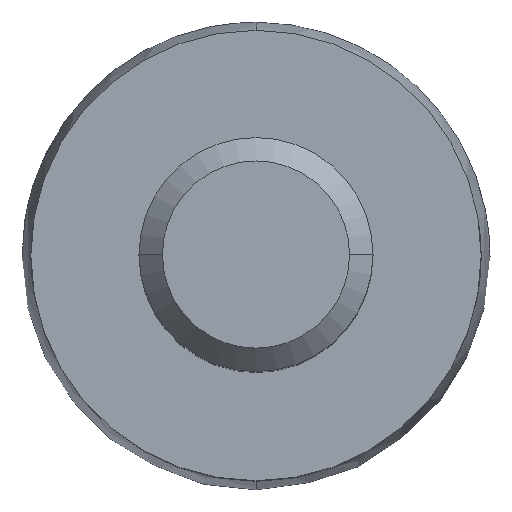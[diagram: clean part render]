
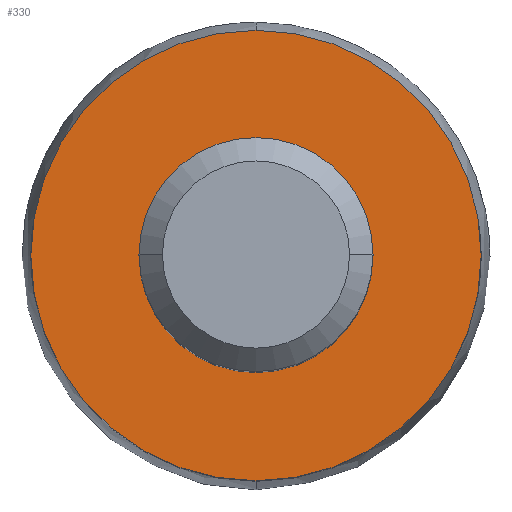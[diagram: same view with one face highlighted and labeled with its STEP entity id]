
A CAD part, top view. The second image highlights one B-rep face of the part: STEP entity #330.
In plain terms, the highlighted planar face has unit normal (0, 0, 1).
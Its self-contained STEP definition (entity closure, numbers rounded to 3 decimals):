
#1 = CARTESIAN_POINT ( 'NONE',  ( 4., 0., -20. ) ) ;
#8 = VERTEX_POINT ( 'NONE', #191 ) ;
#13 = FACE_BOUND ( 'NONE', #237, .T. ) ;
#30 = DIRECTION ( 'NONE',  ( 0., 0., -1. ) ) ;
#69 = CARTESIAN_POINT ( 'NONE',  ( 0., 0., -20. ) ) ;
#78 = AXIS2_PLACEMENT_3D ( 'NONE', #286, #116, #323 ) ;
#86 = AXIS2_PLACEMENT_3D ( 'NONE', #415, #413, #350 ) ;
#107 = DIRECTION ( 'NONE',  ( -1., 0., 0. ) ) ;
#116 = DIRECTION ( 'NONE',  ( 0., 0., 1. ) ) ;
#118 = EDGE_CURVE ( 'NONE', #276, #392, #428, .T. ) ;
#131 = ORIENTED_EDGE ( 'NONE', *, *, #118, .F. ) ;
#144 = EDGE_CURVE ( 'NONE', #392, #276, #398, .T. ) ;
#184 = PLANE ( 'NONE',  #78 ) ;
#191 = CARTESIAN_POINT ( 'NONE',  ( -4., 0., -20. ) ) ;
#204 = AXIS2_PLACEMENT_3D ( 'NONE', #397, #403, #107 ) ;
#210 = VERTEX_POINT ( 'NONE', #1 ) ;
#214 = DIRECTION ( 'NONE',  ( 0., 0., -1. ) ) ;
#229 = CIRCLE ( 'NONE', #86, 4. ) ;
#236 = AXIS2_PLACEMENT_3D ( 'NONE', #69, #214, #277 ) ;
#237 = EDGE_LOOP ( 'NONE', ( #248, #427 ) ) ;
#241 = ORIENTED_EDGE ( 'NONE', *, *, #144, .F. ) ;
#248 = ORIENTED_EDGE ( 'NONE', *, *, #347, .T. ) ;
#250 = EDGE_CURVE ( 'NONE', #210, #8, #303, .T. ) ;
#255 = AXIS2_PLACEMENT_3D ( 'NONE', #356, #30, #289 ) ;
#276 = VERTEX_POINT ( 'NONE', #370 ) ;
#277 = DIRECTION ( 'NONE',  ( -1., 0., 0. ) ) ;
#286 = CARTESIAN_POINT ( 'NONE',  ( 0., 7.7, -20. ) ) ;
#289 = DIRECTION ( 'NONE',  ( -1., 0., 0. ) ) ;
#303 = CIRCLE ( 'NONE', #204, 4. ) ;
#308 = EDGE_LOOP ( 'NONE', ( #131, #241 ) ) ;
#320 = CARTESIAN_POINT ( 'NONE',  ( 7.7, 0., -20. ) ) ;
#323 = DIRECTION ( 'NONE',  ( 1., 0., 0. ) ) ;
#330 = ADVANCED_FACE ( 'NONE', ( #13, #377 ), #184, .T. ) ;
#347 = EDGE_CURVE ( 'NONE', #8, #210, #229, .T. ) ;
#350 = DIRECTION ( 'NONE',  ( -1., 0., 0. ) ) ;
#356 = CARTESIAN_POINT ( 'NONE',  ( 0., 0., -20. ) ) ;
#370 = CARTESIAN_POINT ( 'NONE',  ( -7.7, 0., -20. ) ) ;
#377 = FACE_OUTER_BOUND ( 'NONE', #308, .T. ) ;
#392 = VERTEX_POINT ( 'NONE', #320 ) ;
#397 = CARTESIAN_POINT ( 'NONE',  ( 0., 0., -20. ) ) ;
#398 = CIRCLE ( 'NONE', #236, 7.7 ) ;
#403 = DIRECTION ( 'NONE',  ( 0., 0., -1. ) ) ;
#413 = DIRECTION ( 'NONE',  ( 0., 0., -1. ) ) ;
#415 = CARTESIAN_POINT ( 'NONE',  ( 0., 0., -20. ) ) ;
#427 = ORIENTED_EDGE ( 'NONE', *, *, #250, .T. ) ;
#428 = CIRCLE ( 'NONE', #255, 7.7 ) ;
